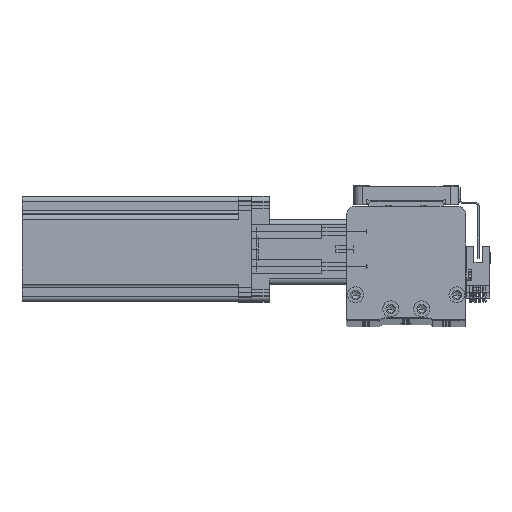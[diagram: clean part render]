
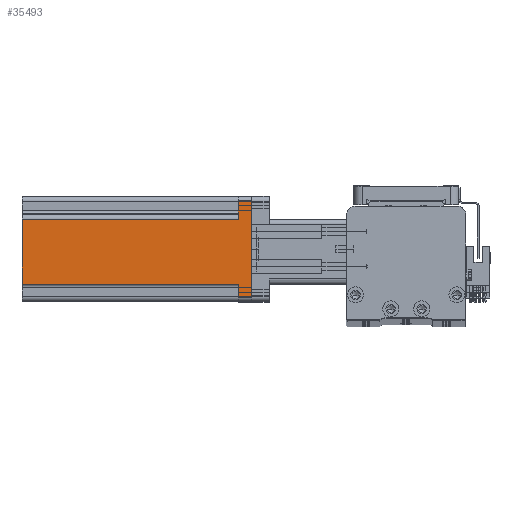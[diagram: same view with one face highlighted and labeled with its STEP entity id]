
A CAD part, top view. The second image highlights one B-rep face of the part: STEP entity #35493.
In plain terms, the highlighted planar face has unit normal (0, 0, 1) as drawn and (-1, 0, 0) by its records, which use the part's own axes.
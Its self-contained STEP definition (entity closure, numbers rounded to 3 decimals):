
#768 = CARTESIAN_POINT ( 'NONE',  ( -30., -30., 7.5 ) ) ;
#2031 = CARTESIAN_POINT ( 'NONE',  ( -30., -17., 130.7 ) ) ;
#3190 = ORIENTED_EDGE ( 'NONE', *, *, #44652, .F. ) ;
#5436 = EDGE_CURVE ( 'NONE', #31410, #13033, #37536, .T. ) ;
#5800 = CARTESIAN_POINT ( 'NONE',  ( -30., -17., 130.7 ) ) ;
#6089 = AXIS2_PLACEMENT_3D ( 'NONE', #48688, #23500, #52898 ) ;
#6261 = DIRECTION ( 'NONE',  ( 0., 0., 1. ) ) ;
#6764 = LINE ( 'NONE', #46524, #39116 ) ;
#6816 = VERTEX_POINT ( 'NONE', #38386 ) ;
#7106 = FACE_OUTER_BOUND ( 'NONE', #35375, .T. ) ;
#7657 = VECTOR ( 'NONE', #37065, 1000. ) ;
#8364 = EDGE_CURVE ( 'NONE', #13033, #46564, #52164, .T. ) ;
#11788 = CARTESIAN_POINT ( 'NONE',  ( -30., 27., 130.7 ) ) ;
#12381 = ORIENTED_EDGE ( 'NONE', *, *, #5436, .T. ) ;
#12556 = LINE ( 'NONE', #2031, #33691 ) ;
#12969 = CARTESIAN_POINT ( 'NONE',  ( -30., 27., 7.5 ) ) ;
#13033 = VERTEX_POINT ( 'NONE', #18981 ) ;
#13514 = ORIENTED_EDGE ( 'NONE', *, *, #46258, .F. ) ;
#15045 = VECTOR ( 'NONE', #42623, 1000. ) ;
#17789 = DIRECTION ( 'NONE',  ( 0., -1., 0. ) ) ;
#18485 = CARTESIAN_POINT ( 'NONE',  ( -30., -30., 130.7 ) ) ;
#18981 = CARTESIAN_POINT ( 'NONE',  ( -30., -27., 0. ) ) ;
#21727 = EDGE_CURVE ( 'NONE', #26937, #31410, #52481, .T. ) ;
#22446 = EDGE_CURVE ( 'NONE', #38524, #26937, #6764, .T. ) ;
#22752 = DIRECTION ( 'NONE',  ( 0., -1., 0. ) ) ;
#23500 = DIRECTION ( 'NONE',  ( 1., 0., 0. ) ) ;
#24666 = VERTEX_POINT ( 'NONE', #42406 ) ;
#24734 = LINE ( 'NONE', #45808, #45813 ) ;
#26937 = VERTEX_POINT ( 'NONE', #12969 ) ;
#27016 = VECTOR ( 'NONE', #17789, 1000. ) ;
#27670 = ORIENTED_EDGE ( 'NONE', *, *, #22446, .T. ) ;
#29796 = VECTOR ( 'NONE', #49277, 1000. ) ;
#31410 = VERTEX_POINT ( 'NONE', #37162 ) ;
#31598 = PLANE ( 'NONE',  #6089 ) ;
#32971 = EDGE_CURVE ( 'NONE', #24666, #35128, #12556, .T. ) ;
#33691 = VECTOR ( 'NONE', #6261, 1000. ) ;
#33789 = CARTESIAN_POINT ( 'NONE',  ( -30., -30., 0. ) ) ;
#35128 = VERTEX_POINT ( 'NONE', #5800 ) ;
#35375 = EDGE_LOOP ( 'NONE', ( #13514, #37818, #3190, #36631, #27670, #40033, #12381, #44657 ) ) ;
#35493 = ADVANCED_FACE ( 'NONE', ( #7106 ), #31598, .F. ) ;
#36631 = ORIENTED_EDGE ( 'NONE', *, *, #44217, .F. ) ;
#37065 = DIRECTION ( 'NONE',  ( 0., 0., -1. ) ) ;
#37162 = CARTESIAN_POINT ( 'NONE',  ( -30., 27., 0. ) ) ;
#37536 = LINE ( 'NONE', #33789, #15045 ) ;
#37818 = ORIENTED_EDGE ( 'NONE', *, *, #32971, .T. ) ;
#38386 = CARTESIAN_POINT ( 'NONE',  ( -30., 20., 130.7 ) ) ;
#38524 = VERTEX_POINT ( 'NONE', #49730 ) ;
#39116 = VECTOR ( 'NONE', #50698, 1000. ) ;
#39559 = LINE ( 'NONE', #768, #27016 ) ;
#40033 = ORIENTED_EDGE ( 'NONE', *, *, #21727, .T. ) ;
#41829 = VECTOR ( 'NONE', #22752, 1000. ) ;
#42406 = CARTESIAN_POINT ( 'NONE',  ( -30., -17., 7.5 ) ) ;
#42623 = DIRECTION ( 'NONE',  ( 0., -1., 0. ) ) ;
#44217 = EDGE_CURVE ( 'NONE', #38524, #6816, #24734, .T. ) ;
#44652 = EDGE_CURVE ( 'NONE', #6816, #35128, #52952, .T. ) ;
#44657 = ORIENTED_EDGE ( 'NONE', *, *, #8364, .T. ) ;
#45437 = CARTESIAN_POINT ( 'NONE',  ( -30., -27., 7.5 ) ) ;
#45808 = CARTESIAN_POINT ( 'NONE',  ( -30., 20., 7.5 ) ) ;
#45813 = VECTOR ( 'NONE', #50012, 1000. ) ;
#46258 = EDGE_CURVE ( 'NONE', #24666, #46564, #39559, .T. ) ;
#46524 = CARTESIAN_POINT ( 'NONE',  ( -30., 30., 7.5 ) ) ;
#46564 = VERTEX_POINT ( 'NONE', #45437 ) ;
#48688 = CARTESIAN_POINT ( 'NONE',  ( -30., -30., 130.7 ) ) ;
#49277 = DIRECTION ( 'NONE',  ( 0., 0., 1. ) ) ;
#49561 = CARTESIAN_POINT ( 'NONE',  ( -30., -27., 130.7 ) ) ;
#49730 = CARTESIAN_POINT ( 'NONE',  ( -30., 20., 7.5 ) ) ;
#50012 = DIRECTION ( 'NONE',  ( 0., 0., 1. ) ) ;
#50698 = DIRECTION ( 'NONE',  ( 0., 1., 0. ) ) ;
#52164 = LINE ( 'NONE', #49561, #29796 ) ;
#52481 = LINE ( 'NONE', #11788, #7657 ) ;
#52898 = DIRECTION ( 'NONE',  ( 0., 0., -1. ) ) ;
#52952 = LINE ( 'NONE', #18485, #41829 ) ;
